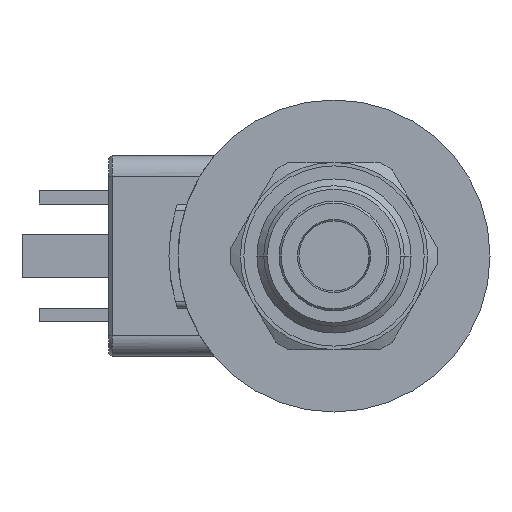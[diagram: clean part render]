
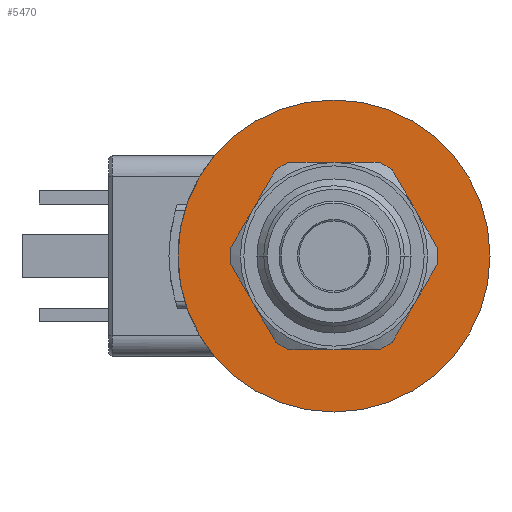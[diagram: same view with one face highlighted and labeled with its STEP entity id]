
A CAD part, left-side view. The second image highlights one B-rep face of the part: STEP entity #5470.
In plain terms, the highlighted planar face has unit normal (-1, 0, 0).
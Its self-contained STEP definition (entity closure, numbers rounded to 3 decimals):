
#1484=CARTESIAN_POINT('',(10.,0.,0.));
#1485=DIRECTION('',(1.,0.,0.));
#1486=DIRECTION('',(0.,0.,1.));
#1487=AXIS2_PLACEMENT_3D('',#1484,#1485,#1486);
#1501=CARTESIAN_POINT('',(10.,-11.691,6.75));
#1518=CARTESIAN_POINT('',(10.,0.,0.));
#1519=DIRECTION('',(1.,0.,0.));
#1520=DIRECTION('',(0.,0.866,0.5));
#1521=AXIS2_PLACEMENT_3D('',#1518,#1519,#1520);
#1535=CARTESIAN_POINT('',(10.,0.,
13.5));
#1552=CARTESIAN_POINT('',(10.,0.,0.));
#1553=DIRECTION('',(-1.,0.,0.));
#1554=DIRECTION('',(0.,0.,-1.));
#1555=AXIS2_PLACEMENT_3D('',#1552,#1553,#1554);
#1569=CARTESIAN_POINT('',(10.,0.,
-13.5));
#1586=CARTESIAN_POINT('',(10.,0.,0.));
#1587=DIRECTION('',(-1.,0.,0.));
#1588=DIRECTION('',(0.,0.866,-0.5));
#1589=AXIS2_PLACEMENT_3D('',#1586,#1587,#1588);
#1603=CARTESIAN_POINT('',(10.,11.691,-6.75));
#1605=CARTESIAN_POINT('',(10.,0.,0.));
#1606=DIRECTION('',(1.,0.,0.));
#1607=DIRECTION('',(0.,0.866,-0.5));
#1608=AXIS2_PLACEMENT_3D('',#1605,#1606,#1607);
#1622=CARTESIAN_POINT('',(10.,11.691,6.75));
#1639=CARTESIAN_POINT('',(10.,0.,0.));
#1640=DIRECTION('',(1.,0.,0.));
#1641=DIRECTION('',(0.,1.,0.));
#1642=AXIS2_PLACEMENT_3D('',#1639,#1640,#1641);
#1644=CARTESIAN_POINT('',(10.,0.,0.));
#1645=DIRECTION('',(-1.,0.,0.));
#1646=DIRECTION('',(0.,1.,0.));
#1647=AXIS2_PLACEMENT_3D('',#1644,#1645,#1646);
#3679=CARTESIAN_POINT('',(10.,0.,0.));
#3680=DIRECTION('',(1.,0.,0.));
#3681=DIRECTION('',(0.,-0.866,0.5));
#3682=AXIS2_PLACEMENT_3D('',#3679,#3680,#3681);
#3696=CARTESIAN_POINT('',(10.,-11.691,
-6.75));
#3845=CARTESIAN_POINT('',(10.,-22.5,0.));
#3847=VERTEX_POINT('',#3845);
#3875=VERTEX_POINT('',#1622);
#3878=VERTEX_POINT('',#1535);
#3881=VERTEX_POINT('',#1501);
#3899=VERTEX_POINT('',#3696);
#3902=VERTEX_POINT('',#1569);
#3905=VERTEX_POINT('',#1603);
#4026=CARTESIAN_POINT('',(10.,22.5,0.));
#4027=VERTEX_POINT('',#4026);
#5450=CARTESIAN_POINT('',(10.,0.,0.));
#5451=DIRECTION('',(1.,0.,0.));
#5452=DIRECTION('',(0.,-1.,0.));
#5453=AXIS2_PLACEMENT_3D('',#5450,#5451,#5452);
#5454=PLANE('',#5453);
#5456=ORIENTED_EDGE('',*,*,#5455,.T.);
#5458=ORIENTED_EDGE('',*,*,#5457,.F.);
#5459=EDGE_LOOP('',(#5456,#5458));
#5460=FACE_OUTER_BOUND('',#5459,.F.);
#5461=ORIENTED_EDGE('',*,*,#5432,.F.);
#5462=ORIENTED_EDGE('',*,*,#5411,.T.);
#5463=ORIENTED_EDGE('',*,*,#5388,.T.);
#5465=ORIENTED_EDGE('',*,*,#5464,.F.);
#5466=ORIENTED_EDGE('',*,*,#5343,.F.);
#5467=ORIENTED_EDGE('',*,*,#5366,.F.);
#5468=EDGE_LOOP('',(#5461,#5462,#5463,#5465,#5466,#5467));
#5469=FACE_BOUND('',#5468,.F.);
#1488=CIRCLE('',#1487,13.5);
#1522=CIRCLE('',#1521,13.5);
#1556=CIRCLE('',#1555,13.5);
#1590=CIRCLE('',#1589,13.5);
#1609=CIRCLE('',#1608,13.5);
#1643=CIRCLE('',#1642,22.5);
#1648=CIRCLE('',#1647,22.5);
#3683=CIRCLE('',#3682,13.5);
#5343=EDGE_CURVE('',#3878,#3881,#1488,.T.);
#5366=EDGE_CURVE('',#3875,#3878,#1522,.T.);
#5388=EDGE_CURVE('',#3902,#3899,#1556,.T.);
#5411=EDGE_CURVE('',#3905,#3902,#1590,.T.);
#5432=EDGE_CURVE('',#3905,#3875,#1609,.T.);
#5455=EDGE_CURVE('',#4027,#3847,#1643,.T.);
#5457=EDGE_CURVE('',#4027,#3847,#1648,.T.);
#5464=EDGE_CURVE('',#3881,#3899,#3683,.T.);
#5470=ADVANCED_FACE('',(#5460,#5469),#5454,.F.);
